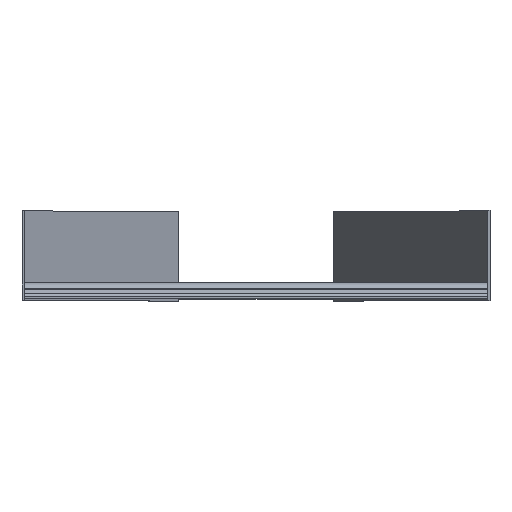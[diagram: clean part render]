
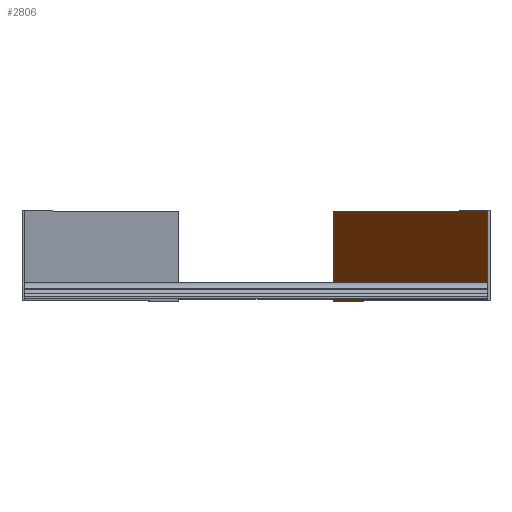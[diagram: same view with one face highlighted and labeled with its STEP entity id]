
A CAD part, top view. The second image highlights one B-rep face of the part: STEP entity #2806.
In plain terms, the highlighted planar face has unit normal (-0.881, 0, 0.472).
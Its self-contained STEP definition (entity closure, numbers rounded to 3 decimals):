
#1 = VECTOR ( 'NONE', #6479, 1000. ) ;
#43 = DIRECTION ( 'NONE',  ( 0.472, 0., 0.881 ) ) ;
#433 = ORIENTED_EDGE ( 'NONE', *, *, #3713, .T. ) ;
#561 = CARTESIAN_POINT ( 'NONE',  ( 225., 0., 0. ) ) ;
#717 = EDGE_CURVE ( 'NONE', #3645, #2895, #3513, .T. ) ;
#746 = AXIS2_PLACEMENT_3D ( 'NONE', #1569, #1077, #43 ) ;
#778 = DIRECTION ( 'NONE',  ( 0., 1., 0. ) ) ;
#1054 = CARTESIAN_POINT ( 'NONE',  ( 224.822, 87., -0.332 ) ) ;
#1077 = DIRECTION ( 'NONE',  ( -0.881, 0., 0.472 ) ) ;
#1127 = LINE ( 'NONE', #6616, #5316 ) ;
#1159 = LINE ( 'NONE', #4318, #2871 ) ;
#1446 = ORIENTED_EDGE ( 'NONE', *, *, #717, .F. ) ;
#1542 = EDGE_CURVE ( 'NONE', #4614, #3721, #1159, .T. ) ;
#1569 = CARTESIAN_POINT ( 'NONE',  ( 225., 87., 0. ) ) ;
#1697 = DIRECTION ( 'NONE',  ( -0.472, 0., -0.881 ) ) ;
#2127 = EDGE_LOOP ( 'NONE', ( #1446, #4865, #7084, #433 ) ) ;
#2194 = FACE_OUTER_BOUND ( 'NONE', #2127, .T. ) ;
#2397 = VECTOR ( 'NONE', #778, 1000. ) ;
#2806 = ADVANCED_FACE ( 'NONE', ( #2194 ), #4890, .T. ) ;
#2871 = VECTOR ( 'NONE', #7071, 1000. ) ;
#2895 = VERTEX_POINT ( 'NONE', #6202 ) ;
#3513 = LINE ( 'NONE', #5706, #2397 ) ;
#3645 = VERTEX_POINT ( 'NONE', #4393 ) ;
#3713 = EDGE_CURVE ( 'NONE', #3721, #2895, #1127, .T. ) ;
#3721 = VERTEX_POINT ( 'NONE', #1054 ) ;
#4159 = LINE ( 'NONE', #561, #1 ) ;
#4318 = CARTESIAN_POINT ( 'NONE',  ( 224.822, 0., -0.332 ) ) ;
#4393 = CARTESIAN_POINT ( 'NONE',  ( 75.415, 0., -279.226 ) ) ;
#4547 = CARTESIAN_POINT ( 'NONE',  ( 224.822, 0., -0.332 ) ) ;
#4614 = VERTEX_POINT ( 'NONE', #4547 ) ;
#4865 = ORIENTED_EDGE ( 'NONE', *, *, #6225, .F. ) ;
#4890 = PLANE ( 'NONE',  #746 ) ;
#5316 = VECTOR ( 'NONE', #1697, 1000. ) ;
#5706 = CARTESIAN_POINT ( 'NONE',  ( 75.415, 0., -279.226 ) ) ;
#6202 = CARTESIAN_POINT ( 'NONE',  ( 75.415, 87., -279.226 ) ) ;
#6225 = EDGE_CURVE ( 'NONE', #4614, #3645, #4159, .T. ) ;
#6479 = DIRECTION ( 'NONE',  ( -0.472, 0., -0.881 ) ) ;
#6616 = CARTESIAN_POINT ( 'NONE',  ( 225., 87., 0. ) ) ;
#7071 = DIRECTION ( 'NONE',  ( 0., 1., 0. ) ) ;
#7084 = ORIENTED_EDGE ( 'NONE', *, *, #1542, .T. ) ;
